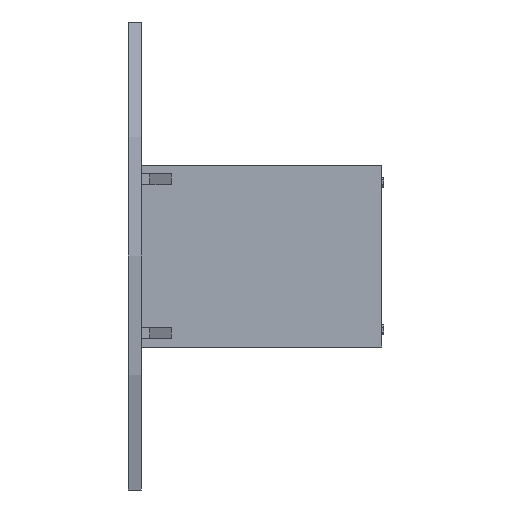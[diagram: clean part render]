
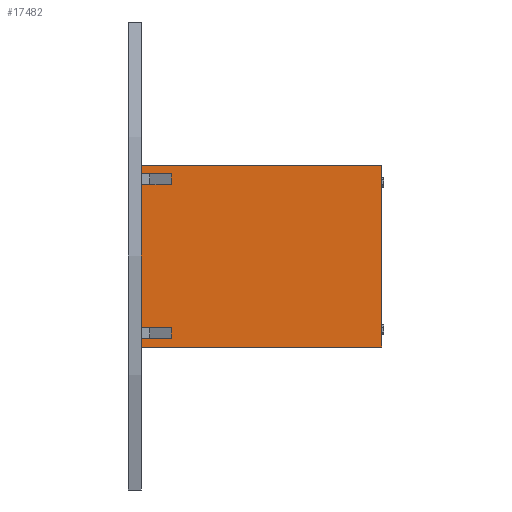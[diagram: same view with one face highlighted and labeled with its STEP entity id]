
A CAD part, left-side view. The second image highlights one B-rep face of the part: STEP entity #17482.
In plain terms, the highlighted planar face has unit normal (-1, 0, 0) as drawn and (0, 0, -1) by its records, which use the part's own axes.
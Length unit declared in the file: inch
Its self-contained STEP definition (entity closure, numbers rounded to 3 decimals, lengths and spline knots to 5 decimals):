
#2667=PLANE('',#19562);
#3695=FACE_OUTER_BOUND('',#4573,.T.);
#4573=EDGE_LOOP('',(#14210,#14211,#14212,#14213,#14214,#14215,#14216,#14217,
#14218,#14219,#14220,#14221));
#5522=LINE('',#30364,#7218);
#5526=LINE('',#30373,#7222);
#5530=LINE('',#30380,#7226);
#5532=LINE('',#30385,#7228);
#5536=LINE('',#30394,#7232);
#5540=LINE('',#30401,#7236);
#5544=LINE('',#30408,#7240);
#5546=LINE('',#30411,#7242);
#5547=LINE('',#30414,#7243);
#5550=LINE('',#30420,#7246);
#5551=LINE('',#30422,#7247);
#5552=LINE('',#30423,#7248);
#7218=VECTOR('',#22288,0.3937);
#7222=VECTOR('',#22294,0.3937);
#7226=VECTOR('',#22300,0.3937);
#7228=VECTOR('',#22304,0.3937);
#7232=VECTOR('',#22310,0.3937);
#7236=VECTOR('',#22316,0.3937);
#7240=VECTOR('',#22322,0.3937);
#7242=VECTOR('',#22326,0.3937);
#7243=VECTOR('',#22329,0.3937);
#7246=VECTOR('',#22334,0.3937);
#7247=VECTOR('',#22335,0.3937);
#7248=VECTOR('',#22336,0.3937);
#9485=VERTEX_POINT('',#30362);
#9486=VERTEX_POINT('',#30363);
#9489=VERTEX_POINT('',#30371);
#9490=VERTEX_POINT('',#30372);
#9493=VERTEX_POINT('',#30383);
#9494=VERTEX_POINT('',#30384);
#9497=VERTEX_POINT('',#30392);
#9498=VERTEX_POINT('',#30393);
#9502=VERTEX_POINT('',#30406);
#9503=VERTEX_POINT('',#30413);
#9505=VERTEX_POINT('',#30419);
#9506=VERTEX_POINT('',#30421);
#11201=EDGE_CURVE('',#9485,#9486,#5522,.T.);
#11205=EDGE_CURVE('',#9489,#9490,#5526,.T.);
#11209=EDGE_CURVE('',#9490,#9485,#5530,.T.);
#11211=EDGE_CURVE('',#9493,#9494,#5532,.T.);
#11215=EDGE_CURVE('',#9497,#9498,#5536,.T.);
#11219=EDGE_CURVE('',#9498,#9493,#5540,.T.);
#11223=EDGE_CURVE('',#9502,#9494,#5544,.T.);
#11225=EDGE_CURVE('',#9497,#9486,#5546,.T.);
#11226=EDGE_CURVE('',#9489,#9503,#5547,.T.);
#11229=EDGE_CURVE('',#9505,#9502,#5550,.T.);
#11230=EDGE_CURVE('',#9505,#9506,#5551,.T.);
#11231=EDGE_CURVE('',#9506,#9503,#5552,.T.);
#14210=ORIENTED_EDGE('',*,*,#11205,.T.);
#14211=ORIENTED_EDGE('',*,*,#11209,.T.);
#14212=ORIENTED_EDGE('',*,*,#11201,.T.);
#14213=ORIENTED_EDGE('',*,*,#11225,.F.);
#14214=ORIENTED_EDGE('',*,*,#11215,.T.);
#14215=ORIENTED_EDGE('',*,*,#11219,.T.);
#14216=ORIENTED_EDGE('',*,*,#11211,.T.);
#14217=ORIENTED_EDGE('',*,*,#11223,.F.);
#14218=ORIENTED_EDGE('',*,*,#11229,.F.);
#14219=ORIENTED_EDGE('',*,*,#11230,.T.);
#14220=ORIENTED_EDGE('',*,*,#11231,.T.);
#14221=ORIENTED_EDGE('',*,*,#11226,.F.);
#17482=ADVANCED_FACE('',(#3695),#2667,.T.);
#19562=AXIS2_PLACEMENT_3D('',#30418,#22332,#22333);
#22288=DIRECTION('',(0.,1.,0.));
#22294=DIRECTION('',(0.,-1.,0.));
#22300=DIRECTION('',(1.,0.,0.));
#22304=DIRECTION('',(0.,1.,0.));
#22310=DIRECTION('',(0.,-1.,0.));
#22316=DIRECTION('',(1.,0.,0.));
#22322=DIRECTION('',(-1.,0.,0.));
#22326=DIRECTION('',(-1.,0.,0.));
#22329=DIRECTION('',(-1.,0.,0.));
#22332=DIRECTION('center_axis',(0.,0.,-1.));
#22333=DIRECTION('ref_axis',(-1.,0.,0.));
#22334=DIRECTION('',(0.,1.,0.));
#22335=DIRECTION('',(-1.,0.,0.));
#22336=DIRECTION('',(0.,1.,0.));
#30362=CARTESIAN_POINT('',(2.25,24.25,-10.));
#30363=CARTESIAN_POINT('',(2.25,27.75,-10.));
#30364=CARTESIAN_POINT('',(2.25,13.875,-10.));
#30371=CARTESIAN_POINT('',(1.,27.75,-10.));
#30372=CARTESIAN_POINT('',(1.,24.25,-10.));
#30373=CARTESIAN_POINT('',(1.,12.125,-10.));
#30380=CARTESIAN_POINT('',(11.625,24.25,-10.));
#30383=CARTESIAN_POINT('',(20.,24.25,-10.));
#30384=CARTESIAN_POINT('',(20.,27.75,-10.));
#30385=CARTESIAN_POINT('',(20.,13.875,-10.));
#30392=CARTESIAN_POINT('',(18.75,27.75,-10.));
#30393=CARTESIAN_POINT('',(18.75,24.25,-10.));
#30394=CARTESIAN_POINT('',(18.75,12.125,-10.));
#30401=CARTESIAN_POINT('',(20.5,24.25,-10.));
#30406=CARTESIAN_POINT('',(21.,27.75,-10.));
#30408=CARTESIAN_POINT('',(21.,27.75,-10.));
#30411=CARTESIAN_POINT('',(21.,27.75,-10.));
#30413=CARTESIAN_POINT('',(0.,27.75,-10.));
#30414=CARTESIAN_POINT('',(21.,27.75,-10.));
#30418=CARTESIAN_POINT('Origin',(21.,0.,-10.));
#30419=CARTESIAN_POINT('',(21.,0.,-10.));
#30420=CARTESIAN_POINT('',(21.,0.,-10.));
#30421=CARTESIAN_POINT('',(0.,0.,-10.));
#30422=CARTESIAN_POINT('',(21.,0.,-10.));
#30423=CARTESIAN_POINT('',(0.,0.,-10.));
